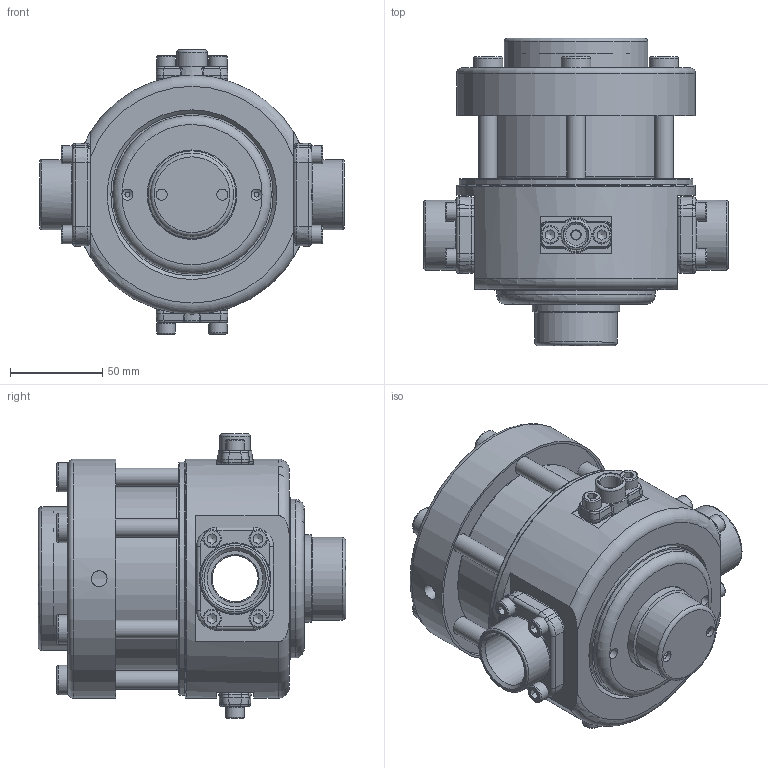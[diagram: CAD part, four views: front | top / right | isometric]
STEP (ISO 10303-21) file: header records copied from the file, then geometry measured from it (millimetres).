
FILE_DESCRIPTION(/* description */ ('Regolatore di pressione 3P0R2'),/* implementation_level */ '2;1');
FILE_NAME(/* name */ 'I:\TEC\Lavoro\ARCHIVIO DISEGNI INVENTOR\WorkSpace\Schizzi\Francesco\1 - AIRCOM MERDA\STEP PER aircomerda\3P0R2# 10 - 50bar.stp',/* time_stamp */ '2023-04-18T15:12:12+02:00',/* author */ ('FrancescoLazio'),/* organization */ (''),/* preprocessor_version */ 'ST-DEVELOPER v19',/* originating_system */ 'Autodesk Inventor 2023',/* authorisation */ '');
FILE_SCHEMA (('AUTOMOTIVE_DESIGN { 1 0 10303 214 3 1 1 }'));
Length unit declared in the file: millimetre
Products named in the file (47): C81025; P20579; P34186; P34192; C22012; P22071; P42029; P41113; P32026; P24043; P24043_1; P37083; OR 07054; OR 07075; OR 13096; OR 15121; OR 16117; P25032; 0DC10410; 0DC10410_1; 0DC10410_2; 0DC10410_3; 0DC10410_4; 0DC10410_5; 0DC10410_6; 0DC10410_7; 0DC10410_8; P37129; P37131; OR 07021; OR 15121_1; P27112; OR 05006; P51044; P37098; OR 13109; P26106; P43063; OR 08022; OR 18087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
Assembly tree (52 placements, depth 3):
  C81025
    P20579
    P34186
    P34192
    C22012
      P22071
      P42029
    P41113
    P32026
    P24043
      P24043_1
    P37083  x2
    OR 07054
    OR 07075  x2
    OR 13096
    OR 15121
    OR 16117
    P25032
    0DC10410
    0DC10410_1
    0DC10410_2
    0DC10410_3
    0DC10410_4
    0DC10410_5
    0DC10410_6
    0DC10410_7
    0DC10410_8  x4
    P37129
    P37131
    OR 07021  x2
    OR 15121_1
    P27112
    OR 05006
    P51044
    P37098
    OR 13109
    P26106
    P43063
    OR 08022
    OR 18087
    OR 18158
    0DC10622
    0DC10622_1
    0DC10622_2
    0DC10622_3
    0DC10622_4
    0DC10622_5
Bounding box: 165 x 166.7 x 154.2 mm (x, y, z)
Volume: 522310.2 mm3; surface area: 215857.4 mm2
Topology: 33 solids, 33 shells, 730 faces, 1809 edges, 1153 vertices
Faces by surface type: plane 259, cylinder 194, torus 122, cone 101, bspline 53, sphere 1
Full cylindrical faces by diameter (mm): 4.134 x1, 4.917 x12, 5 x2, 5.6 x1, 6 x18, 6.5 x12, 7.7 x2, 8.376 x6, 8.4 x1, 8.566 x2, 10 x18, 10.5 x6, 11.2 x2, 11.445 x1, 16 x6, 16.5 x1, 25 x2, 30.291 x2, 34.6 x2, 38 x2, 38.5 x2, 40 x1, 45 x2, 47.5 x1, 48.5 x1, 50 x1, 50.5 x1, 77 x2, 78 x1, 83 x1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
Entity records: 23368 total; most frequent: CARTESIAN_POINT 7071, DIRECTION 3193, ORIENTED_EDGE 2990, EDGE_CURVE 1495, AXIS2_PLACEMENT_3D 1336, VERTEX_POINT 971, EDGE_LOOP 750, CIRCLE 652
